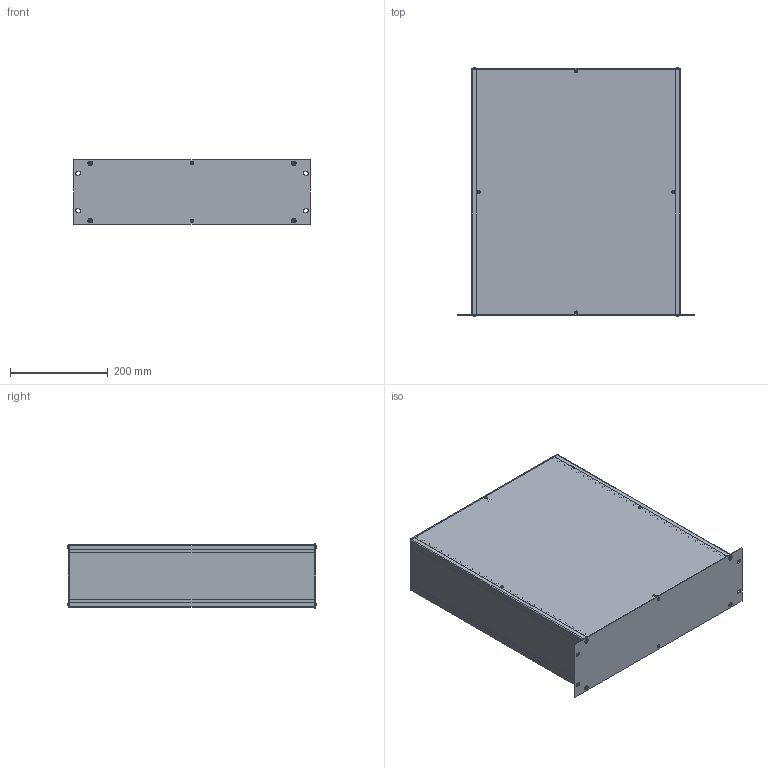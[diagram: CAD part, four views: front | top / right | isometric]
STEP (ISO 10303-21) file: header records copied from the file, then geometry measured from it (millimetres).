
FILE_DESCRIPTION(/* description */ (''),/* implementation_level */ '2;1');
FILE_NAME(/* name */ '//diskstation/Kunden/Gehäuse/Gehäuse/3HE/step/Zoll 3HE Rack Gehäuse Tiefe-500.step',/* time_stamp */ '2022-02-17T15:41:38+01:00',/* author */ (''),/* organization */ (''),/* preprocessor_version */ 'ST-DEVELOPER v18.1',/* originating_system */ 'Autodesk Translation Framework v10.10.0.1391',/* authorisation */ '');
FILE_SCHEMA (('AUTOMOTIVE_DESIGN { 1 0 10303 214 3 1 1 }'));
Length unit declared in the file: millimetre
Products named in the file (28): 3HE Gehäuse mit parametern; Gehäuse; Gehäuseprofil 1 unten links; Gehäuseprofil 2 oben rechts; Gehäuseprofil 1 unten rechts; Gehäuseprofil 2 oben links; Rückplatte; Deckel; Seitenteil links; Seitenteil rechts; Bodenplatte; Montageklotz Front/Deckel; Montageklotz Front/Boden; Montageklotz Rück/Deckel; Montageklotz Rück/Boden; Gewindestreifen; Frontplatte; Schrauben M5; Schraube Front; Schraube Front (1); Schraube Front (2); Schraube Front (3); Schraube Rück (1); Schraube Rück; Schraube Rück (2); Schraube Rück (3); Schrauben M3; HI_Senkschraube DIN 965 A v2 M3x5 24677.030.005(High)
Assembly tree (37 placements, depth 3):
  3HE Gehäuse mit parametern
    Gehäuse
      Gehäuseprofil 1 unten links
      Gehäuseprofil 2 oben rechts
      Gehäuseprofil 1 unten rechts
      Gehäuseprofil 2 oben links
      Rückplatte
      Deckel
      Seitenteil links
      Seitenteil rechts
      Bodenplatte
      Montageklotz Front/Deckel
      Montageklotz Front/Boden
      Montageklotz Rück/Deckel
      Montageklotz Rück/Boden
      Gewindestreifen  x2
    Frontplatte
    Schrauben M5
      Schraube Front
      Schraube Front (1)
      Schraube Front (2)
      Schraube Front (3)
      Schraube Rück (1)
      Schraube Rück
      Schraube Rück (2)
      Schraube Rück (3)
    Schrauben M3
      HI_Senkschraube DIN 965 A v2 M3x5 24677.030.005(High)  x10
Bounding box: 483 x 508.2 x 132.5 mm (x, y, z)
Volume: 1679375.8 mm3; surface area: 1488026.8 mm2
Topology: 34 solids, 34 shells, 944 faces, 2346 edges, 1470 vertices
Faces by surface type: cylinder 422, plane 342, cone 164, torus 8, bspline 8
Full cylindrical faces by diameter (mm): 2.529 x180, 3 x10, 3.2 x10, 4.234 x40, 5 x8, 5.2 x4, 5.3 x8, 5.6 x10, 9.5 x8
Entity records: 18600 total; most frequent: CARTESIAN_POINT 3348, DIRECTION 3135, ORIENTED_EDGE 2760, EDGE_CURVE 1380, AXIS2_PLACEMENT_3D 1195, VERTEX_POINT 868, EDGE_LOOP 866, LINE 745
